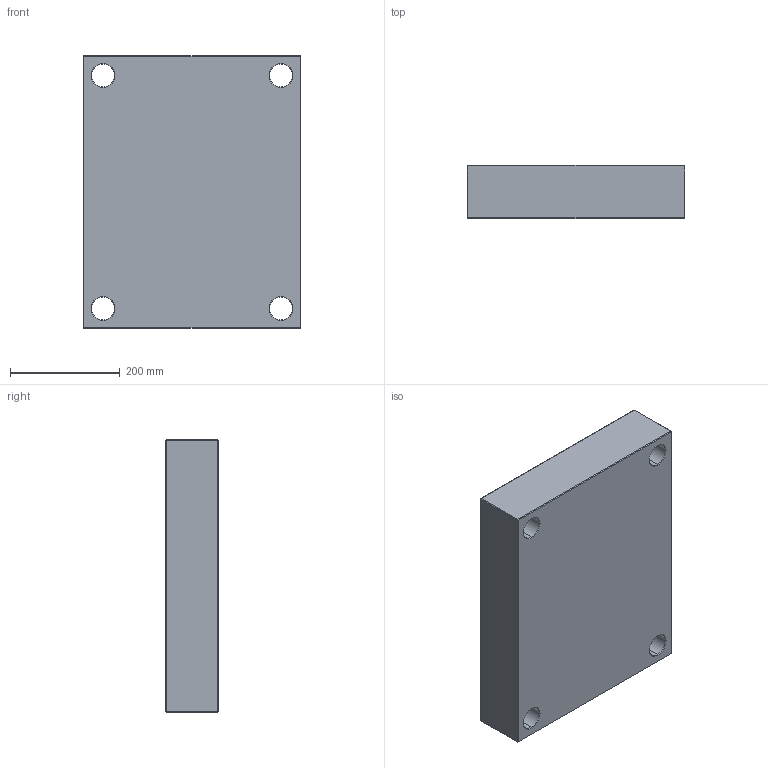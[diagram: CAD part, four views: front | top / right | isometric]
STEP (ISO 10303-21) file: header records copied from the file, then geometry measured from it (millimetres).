
FILE_DESCRIPTION (( 'STEP AP214' ), '1' );
FILE_NAME ('PCX-396x496x96.STEP', '2020-05-04T09:34:51', ( 'August' ), ( '' ), 'SwSTEP 2.0', 'SolidWorks 2018', '' );
FILE_SCHEMA (( 'AUTOMOTIVE_DESIGN' ));
Length unit declared in the file: millimetre
Products named in the file (1): PCX-396x496x96
Bounding box: 396 x 96 x 496 mm (x, y, z)
Volume: 18306919.2 mm3; surface area: 605681.4 mm2
Topology: 1 solids, 1 shells, 82 faces, 168 edges, 96 vertices
Faces by surface type: plane 34, cone 24, cylinder 24
Entity records: 2170 total; most frequent: DIRECTION 406, CARTESIAN_POINT 347, ORIENTED_EDGE 336, EDGE_CURVE 168, AXIS2_PLACEMENT_3D 155, EDGE_LOOP 98, VERTEX_POINT 96, LINE 96
